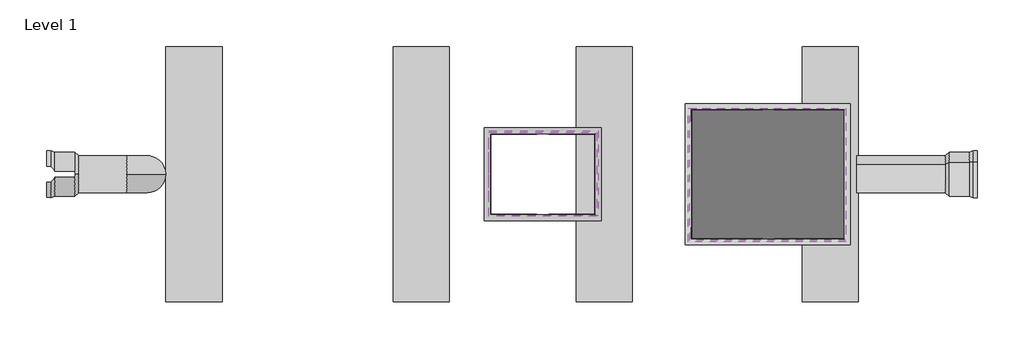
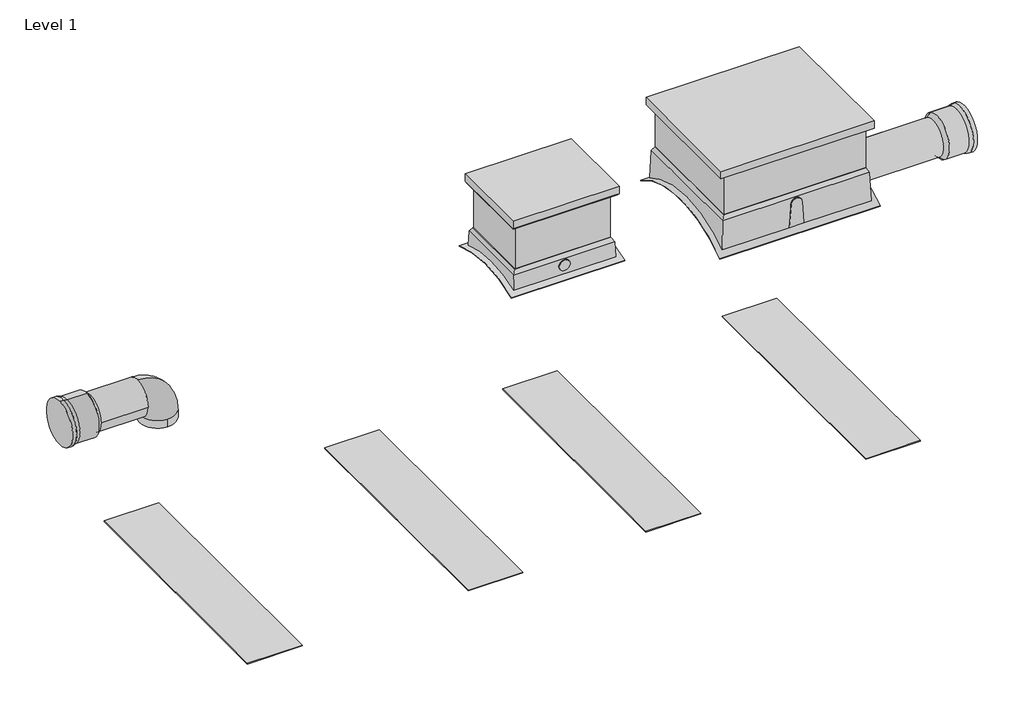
# One storey, incomplete: 12 proxies.
"""IFC4 building model written with IfcOpenShell, lengths in millimetres."""

from ifc_helpers import new_model, si_unit, origin, place, context, project, spatial, transform, mapped, element, save
from components import generic_models_b01f7c66, generic_models_54a7b9da, generic_models_1ade828a, generic_models_ff2e7f39, generic_models_ba4cfca8, generic_models_fcdfde94, generic_models_c0f8ed8c, proxy_450_stormpro_inlet_elbow_3b9101ad, proxy_450_stormpro_pipe_and_socket_69f10140

model = new_model("IFC4")

# Units and contexts
model_context = context("Model", 3, world=origin())
ifc_project = project(units=[si_unit("LENGTHUNIT", "METRE", prefix="MILLI")], contexts=[model_context])

# Site, building, storey
site = spatial("IfcSite", under=ifc_project)
building = spatial("IfcBuilding", under=site)
storey = spatial("IfcBuildingStorey", under=building, Name="Level 1", Elevation=0.0)

# Proxies
placement = place(None, origin())
generic_models_shape = generic_models_b01f7c66(model_context)
element("IfcBuildingElementProxy", 1, Name="SU.HS.FOOT.3000", ObjectType="SU.HS.FOOT.3000", at=placement, inside=storey, context=model_context, shape_type="MappedRepresentation", body=[
    mapped(generic_models_shape, transform((-4294.6021115, -13.0189138, -1883.7858921), x_axis=(0.0, 1.0, 0.0), y_axis=(0.0, 0.0, 1.0), z_axis=(1.0, 0.0, 0.0))),
])
element("IfcBuildingElementProxy", 2, Name="SU.HS.FOOT.3000", ObjectType="SU.HS.FOOT.3000", at=placement, inside=storey, context=model_context, shape_type="MappedRepresentation", body=[
    mapped(generic_models_shape, transform((-1467.9354448, -13.0189138, -1883.7858921), x_axis=(0.0, 1.0, 0.0), y_axis=(0.0, 0.0, 1.0), z_axis=(1.0, 0.0, 0.0))),
])
element("IfcBuildingElementProxy", 3, Name="SU.HS.FOOT.3000", ObjectType="SU.HS.FOOT.3000", at=placement, inside=storey, context=model_context, shape_type="MappedRepresentation", body=[
    mapped(generic_models_shape, transform((3620.0645552, -13.0189138, -1883.7858921), x_axis=(0.0, 1.0, 0.0), y_axis=(0.0, 0.0, 1.0), z_axis=(1.0, 0.0, 0.0))),
])
element("IfcBuildingElementProxy", 4, Name="SU.HS.FOOT.3000", ObjectType="SU.HS.FOOT.3000", at=placement, inside=storey, context=model_context, shape_type="MappedRepresentation", body=[
    mapped(generic_models_shape, transform((807.9390071, -13.0189138, -1883.7858921), x_axis=(0.0, 1.0, 0.0), y_axis=(0.0, 0.0, 1.0), z_axis=(1.0, 0.0, 0.0))),
])
generic_models_2_shape = generic_models_54a7b9da(model_context)
element("IfcBuildingElementProxy", 5, Name="SU.1500x1800ManwayRiserAdaptor.3000", ObjectType="SU.1500x1800ManwayRiserAdaptor.3000", at=placement, inside=storey, context=model_context, shape_type="MappedRepresentation", body=[
    mapped(generic_models_2_shape, transform((3092.0321384, -13.0189138, 1427.6568983), x_axis=(0.0, 1.0, 0.0), y_axis=(0.0, 0.0, 1.0), z_axis=(1.0, 0.0, 0.0))),
])
generic_models_3_shape = generic_models_1ade828a(model_context)
element("IfcBuildingElementProxy", 6, Name="1500x1800 Manway Cover Class D ST-02", ObjectType="1500x1800 Manway Cover Class D ST-02", at=placement, inside=storey, context=model_context, shape_type="MappedRepresentation", body=[
    mapped(generic_models_3_shape, transform((3082.0321384, -23.0189138, 1942.9037481), x_axis=(0.0, 1.0, 0.0), y_axis=(0.0, 0.0, 1.0), z_axis=(1.0, 0.0, 0.0))),
])
generic_models_4_shape = generic_models_ff2e7f39(model_context)
element("IfcBuildingElementProxy", 7, Name="SU.900x1200ManwayRiserAdapter.3000", ObjectType="SU.900x1200ManwayRiserAdapter.3000", at=placement, inside=storey, context=model_context, shape_type="MappedRepresentation", body=[
    mapped(generic_models_4_shape, transform((294.0321384, -13.0189138, 1386.9037481), x_axis=(0.0, -1.0, 0.0), y_axis=(0.0, 0.0, 1.0), z_axis=(-1.0, 0.0, 0.0))),
])
generic_models_5_shape = generic_models_ba4cfca8(model_context)
element("IfcBuildingElementProxy", 8, Name="1500x1800x600 Manway Riser", ObjectType="1500x1800x600 Manway Riser", at=placement, inside=storey, context=model_context, shape_type="MappedRepresentation", body=[
    mapped(generic_models_5_shape, transform((3092.0321384, -13.0189138, 1942.9037481), x_axis=(0.0, 1.0, 0.0), y_axis=(0.0, 0.0, 1.0), z_axis=(1.0, 0.0, 0.0))),
])
generic_models_6_shape = generic_models_fcdfde94(model_context)
element("IfcBuildingElementProxy", 9, Name="900x900 Manway Cover Class D ST-02", ObjectType="900x900 Manway Cover Class D ST-02", at=placement, inside=storey, context=model_context, shape_type="MappedRepresentation", body=[
    mapped(generic_models_6_shape, transform((304.0357957, -3.0152565, 1942.9037481), x_axis=(0.0, 1.0, 0.0), y_axis=(0.0, 0.0, 1.0), z_axis=(1.0, 0.0, 0.0))),
])
generic_models_7_shape = generic_models_c0f8ed8c(model_context)
element("IfcBuildingElementProxy", 10, Name="900x1200x600 Manway Riser", ObjectType="900x1200x600 Manway Riser", at=placement, inside=storey, context=model_context, shape_type="MappedRepresentation", body=[
    mapped(generic_models_7_shape, transform((294.0357957, -13.0152565, 1942.9037481), x_axis=(0.0, 1.0, 0.0), y_axis=(0.0, 0.0, 1.0), z_axis=(1.0, 0.0, 0.0))),
])
proxy_450_stormpro_inlet_elbow_shape = proxy_450_stormpro_inlet_elbow_3b9101ad(model_context)
element("IfcBuildingElementProxy", 11, Name="450 StormPro Inlet Elbow", ObjectType="450 StormPro Inlet Elbow", at=placement, inside=storey, context=model_context, shape_type="MappedRepresentation", body=[
    mapped(proxy_450_stormpro_inlet_elbow_shape, transform((-5429.9982189, -13.0189138, 927.8743619), x_axis=(0.0, -1.0, 0.0), y_axis=(0.0, 0.0, 1.0), z_axis=(-1.0, 0.0, 0.0))),
])
proxy_450_stormpro_pipe_and_socket_shape = proxy_450_stormpro_pipe_and_socket_69f10140(model_context)
element("IfcBuildingElementProxy", 12, Name="450 StormPro Pipe and Socket", ObjectType="450 StormPro Pipe and Socket", at=placement, inside=storey, context=model_context, shape_type="MappedRepresentation", body=[
    mapped(proxy_450_stormpro_pipe_and_socket_shape, transform((2602.7464242, -13.0189138, 877.2141079), x_axis=(0.0, 0.8432797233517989, -0.5374749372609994), y_axis=(0.0, 0.5374749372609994, 0.8432797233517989), z_axis=(0.9999999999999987, 0.0, 0.0))),
])

save(model, "model.ifc")
